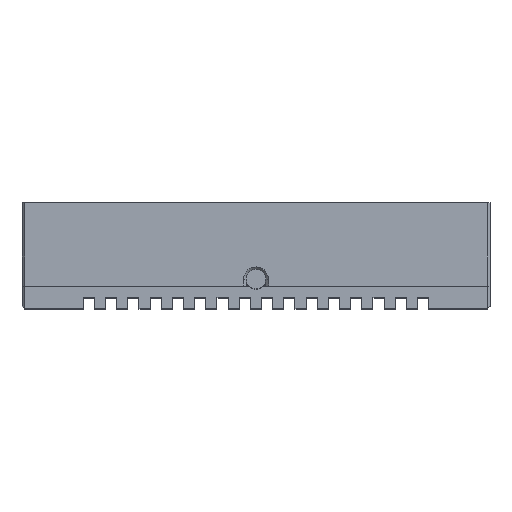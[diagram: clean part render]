
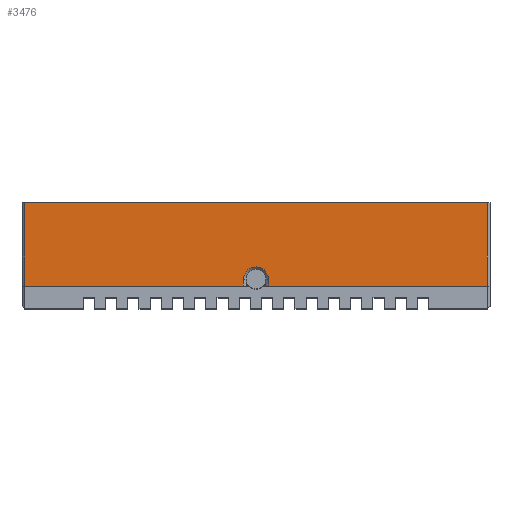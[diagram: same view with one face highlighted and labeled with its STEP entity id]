
A CAD part, top view. The second image highlights one B-rep face of the part: STEP entity #3476.
In plain terms, the highlighted planar face has unit normal (0, 0, 1).
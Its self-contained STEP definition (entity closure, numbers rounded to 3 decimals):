
#437=DIRECTION('',(0.,1.,0.));
#438=VECTOR('',#437,15.);
#439=CARTESIAN_POINT('',(41.5,4.,42.));
#440=LINE('',#439,#438);
#445=DIRECTION('',(0.,-1.,0.));
#446=VECTOR('',#445,1.2);
#447=CARTESIAN_POINT('',(2.25,5.2,42.));
#448=LINE('',#447,#446);
#449=CARTESIAN_POINT('',(0.,5.2,42.));
#450=DIRECTION('',(0.,0.,-1.));
#451=DIRECTION('',(-1.,0.,0.));
#452=AXIS2_PLACEMENT_3D('',#449,#450,#451);
#454=DIRECTION('',(0.,1.,0.));
#455=VECTOR('',#454,1.2);
#456=CARTESIAN_POINT('',(-2.25,4.,42.));
#457=LINE('',#456,#455);
#462=DIRECTION('',(0.,-1.,0.));
#463=VECTOR('',#462,15.);
#464=CARTESIAN_POINT('',(-41.5,19.,42.));
#465=LINE('',#464,#463);
#942=DIRECTION('',(1.,0.,0.));
#943=VECTOR('',#942,83.);
#944=CARTESIAN_POINT('',(-41.5,19.,42.));
#945=LINE('',#944,#943);
#986=DIRECTION('',(1.,0.,0.));
#987=VECTOR('',#986,39.25);
#988=CARTESIAN_POINT('',(-41.5,4.,42.));
#989=LINE('',#988,#987);
#1034=DIRECTION('',(1.,0.,0.));
#1035=VECTOR('',#1034,39.25);
#1036=CARTESIAN_POINT('',(2.25,4.,42.));
#1037=LINE('',#1036,#1035);
#2479=CARTESIAN_POINT('',(-2.25,5.2,42.));
#2480=CARTESIAN_POINT('',(2.25,5.2,42.));
#2481=VERTEX_POINT('',#2479);
#2482=VERTEX_POINT('',#2480);
#2623=CARTESIAN_POINT('',(-41.5,4.,42.));
#2624=CARTESIAN_POINT('',(-2.25,4.,42.));
#2625=VERTEX_POINT('',#2623);
#2626=VERTEX_POINT('',#2624);
#2627=CARTESIAN_POINT('',(2.25,4.,42.));
#2628=CARTESIAN_POINT('',(41.5,4.,42.));
#2629=VERTEX_POINT('',#2627);
#2630=VERTEX_POINT('',#2628);
#2816=CARTESIAN_POINT('',(-41.5,19.,42.));
#2818=VERTEX_POINT('',#2816);
#2819=CARTESIAN_POINT('',(41.5,19.,42.));
#2821=VERTEX_POINT('',#2819);
#3454=CARTESIAN_POINT('',(-42.,17.,42.));
#3455=DIRECTION('',(0.,0.,1.));
#3456=DIRECTION('',(0.,-1.,0.));
#3457=AXIS2_PLACEMENT_3D('',#3454,#3455,#3456);
#3458=PLANE('',#3457);
#3460=ORIENTED_EDGE('',*,*,#3459,.F.);
#3462=ORIENTED_EDGE('',*,*,#3461,.T.);
#3463=ORIENTED_EDGE('',*,*,#3444,.F.);
#3465=ORIENTED_EDGE('',*,*,#3464,.F.);
#3467=ORIENTED_EDGE('',*,*,#3466,.F.);
#3469=ORIENTED_EDGE('',*,*,#3468,.F.);
#3471=ORIENTED_EDGE('',*,*,#3470,.F.);
#3473=ORIENTED_EDGE('',*,*,#3472,.F.);
#3474=EDGE_LOOP('',(#3460,#3462,#3463,#3465,#3467,#3469,#3471,#3473));
#3475=FACE_OUTER_BOUND('',#3474,.F.);
#3476=ADVANCED_FACE('',(#3475),#3458,.T.);
#453=CIRCLE('',#452,2.25);
#3444=EDGE_CURVE('',#2630,#2821,#440,.T.);
#3459=EDGE_CURVE('',#2818,#2625,#465,.T.);
#3461=EDGE_CURVE('',#2818,#2821,#945,.T.);
#3464=EDGE_CURVE('',#2629,#2630,#1037,.T.);
#3466=EDGE_CURVE('',#2482,#2629,#448,.T.);
#3468=EDGE_CURVE('',#2481,#2482,#453,.T.);
#3470=EDGE_CURVE('',#2626,#2481,#457,.T.);
#3472=EDGE_CURVE('',#2625,#2626,#989,.T.);
